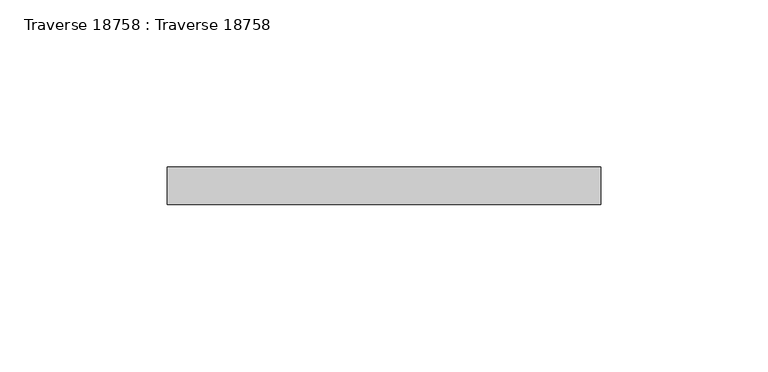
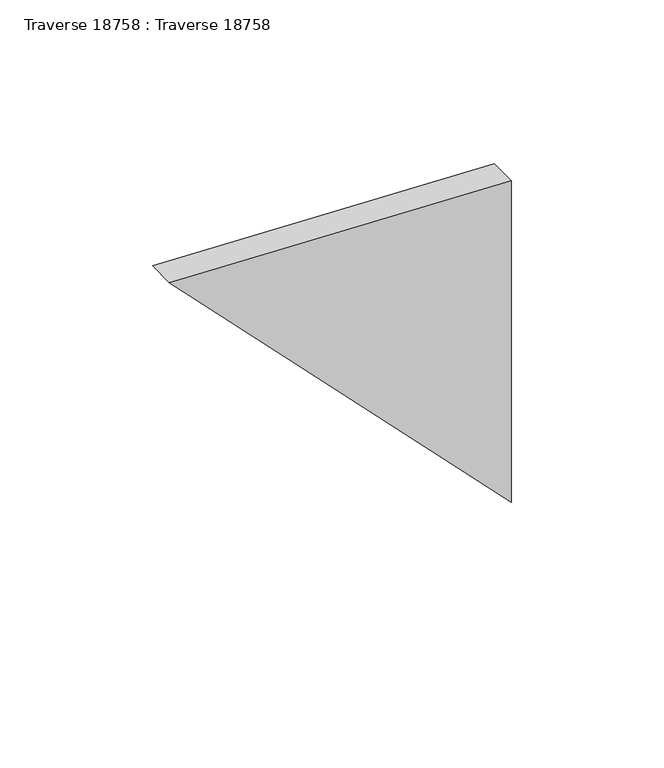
"""IFC4 building model written with IfcOpenShell, lengths in millimetres: beam geometry, Traverse 18758 : Traverse 18758."""

from ifc_helpers import new_model, si_unit, frame, origin, place, context, project, spatial, polyline, outline, extrude, source, transform, mapped, element, save


def traverse_18758_traverse_18758_3b46fa7b(model_context):
    return source(origin(), model_context, "Body", "SweptSolid", [
        extrude(outline(polyline([(6966.680963, 15375.0106718), (7095.3295249, 15375.0157176), (7099.8571524, 15245.6549316), (6966.680963, 15375.0106718)])), frame((0.0, -8605.55, 0.0), z_axis=(0.0, 1.0, 0.0), x_axis=(0.0, 0.0, 1.0)), (0.0, 0.0, 1.0), 11.1),
    ])


if __name__ == "__main__":
    model = new_model("IFC4")
    model_context = context("Model", 3, world=origin())
    ifc_project = project(units=[si_unit("LENGTHUNIT", "METRE", prefix="MILLI")], contexts=[model_context])
    site = spatial("IfcSite", under=ifc_project)
    building = spatial("IfcBuilding", under=site)
    placement = place(None, origin())
    traverse_18758_traverse_18758_shape = traverse_18758_traverse_18758_3b46fa7b(model_context)
    element("IfcBeam", 1, ObjectType="Traverse 18758 : Traverse 18758", at=placement, inside=building, context=model_context, shape_type="MappedRepresentation", body=[
        mapped(traverse_18758_traverse_18758_shape, transform((0.0, 0.0, 0.0), x_axis=(1.0, 0.0, 0.0), y_axis=(0.0, 1.0, 0.0), z_axis=(0.0, 0.0, 1.0))),
    ])
    save(model, "model.ifc")
